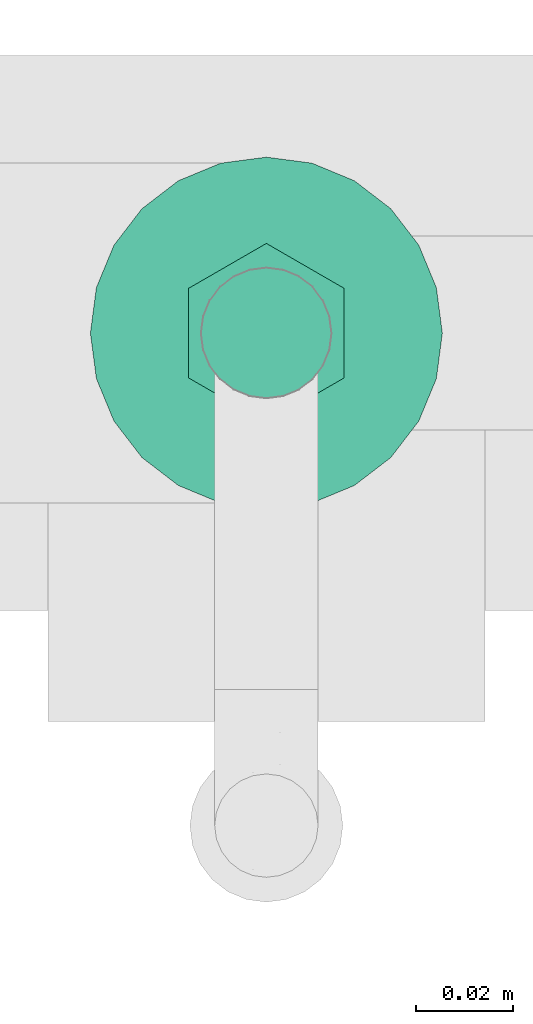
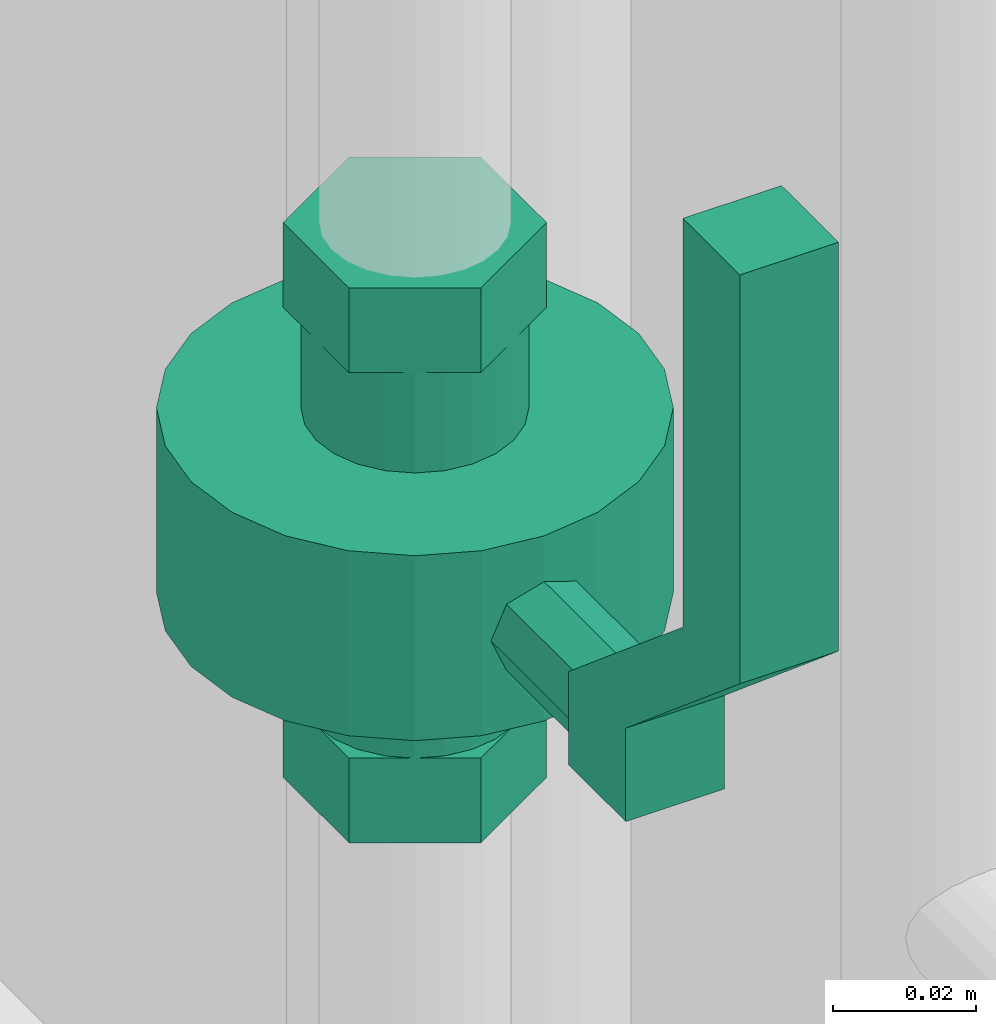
# One storey, part 263 of 374: 1 flow controller.
"""IFC2X3 building model written with IfcOpenShell, lengths in metres."""

from ifc_helpers import new_model, si_unit, direction, origin, place, context, subcontext, project, spatial, open_shell, surface_model, source, transform, mapped, element, save


model = new_model("IFC2X3")

# Units and contexts
model_context = context("Model", 3, precision=1e-05, world=origin(), true_north=direction((-0.4480736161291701, 0.8939966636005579)))
body_context = subcontext(model_context, "Body", "Model", "MODEL_VIEW")
ifc_project = project(units=[si_unit("LENGTHUNIT", "METRE"), si_unit("AREAUNIT", "SQUARE_METRE"), si_unit("VOLUMEUNIT", "CUBIC_METRE"), si_unit("PLANEANGLEUNIT", "RADIAN"), si_unit("THERMODYNAMICTEMPERATUREUNIT", "KELVIN"), si_unit("MASSUNIT", "GRAM", prefix="KILO"), si_unit("TIMEUNIT", "SECOND")], contexts=[model_context])

# Site, building, storey
site_placement = place(None, origin())
site = spatial("IfcSite", under=ifc_project, at=site_placement, Name="Site 1", CompositionType="ELEMENT")
building_placement = place(site_placement, origin())
building = spatial("IfcBuilding", under=site, at=building_placement, Name="Undefined", CompositionType="ELEMENT")
storey_placement = place(building_placement, origin())
storey = spatial("IfcBuildingStorey", under=building, at=storey_placement, Name="Rez de chauss\x8ee", CompositionType="ELEMENT", Elevation=0.0)

# Flow controller
shared_shape = source(origin(), body_context, "Body", "SurfaceModel", [
    surface_model("IfcFaceBasedSurfaceModel", [(0.0, 0.015999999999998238, 0.0), (0.0, 0.0, 0.0), (0.016000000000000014, 0.0, 0.0), (0.016000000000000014, 0.015999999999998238, 0.0), (0.0, 0.0, 0.016000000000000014), (0.016000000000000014, 0.0, 0.016000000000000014), (0.0, 0.015999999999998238, 0.016000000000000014), (0.016000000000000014, 0.015999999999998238, 0.016000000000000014), (0.0, 0.04299999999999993, 0.04800000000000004), (0.016000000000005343, 0.04299999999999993, 0.04800000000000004), (0.0, 0.11299999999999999, 0.04800000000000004), (0.016000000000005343, 0.11299999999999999, 0.04800000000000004), (0.0, 0.11299999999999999, 0.03200000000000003), (0.016000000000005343, 0.11299999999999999, 0.03200000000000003), (0.0, 0.04299999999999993, 0.03200000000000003), (0.016000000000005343, 0.04299999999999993, 0.03200000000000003), (0.02400000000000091, -0.03950000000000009, -0.06623760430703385), (0.02400000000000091, -0.03950000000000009, -0.04776239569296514), (0.02400000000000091, -0.025000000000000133, -0.04776239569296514), (0.02400000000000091, -0.025000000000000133, -0.06623760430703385), (0.008000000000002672, -0.03950000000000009, -0.07547520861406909), (0.008000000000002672, -0.025000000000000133, -0.07547520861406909), (-0.007999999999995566, -0.03950000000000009, -0.06623760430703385), (-0.007999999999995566, -0.025000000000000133, -0.06623760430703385), (-0.007999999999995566, -0.03950000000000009, -0.04776239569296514), (-0.007999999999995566, -0.025000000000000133, -0.04776239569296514), (0.008000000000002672, -0.03950000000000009, -0.03852479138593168), (0.008000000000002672, -0.025000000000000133, -0.03852479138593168), (-0.007999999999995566, -0.025000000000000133, -0.057000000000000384), (-0.007454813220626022, -0.025000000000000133, -0.05285889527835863), (-0.007454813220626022, -0.007833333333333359, -0.05285889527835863), (-0.007999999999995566, -0.007833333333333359, -0.057000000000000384), (-0.005856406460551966, -0.025000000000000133, -0.04899999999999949), (-0.005856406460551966, -0.007833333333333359, -0.04899999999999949), (-0.0033137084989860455, -0.025000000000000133, -0.04568629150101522), (-0.0033137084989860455, -0.007833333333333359, -0.04568629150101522), (0.0, -0.025000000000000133, -0.0431435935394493), (0.0, -0.007833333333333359, -0.0431435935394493), (0.003858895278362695, -0.025000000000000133, -0.04154518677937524), (0.003858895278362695, -0.007833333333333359, -0.04154518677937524), (0.008000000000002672, -0.025000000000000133, -0.04100000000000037), (0.008000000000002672, -0.007833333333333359, -0.04100000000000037), (0.012141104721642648, -0.025000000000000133, -0.04154518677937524), (0.012141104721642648, -0.007833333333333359, -0.04154518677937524), (0.016000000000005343, -0.025000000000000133, -0.0431435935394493), (0.016000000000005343, -0.007833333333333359, -0.0431435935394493), (0.01931370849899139, -0.025000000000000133, -0.04568629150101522), (0.01931370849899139, -0.007833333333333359, -0.04568629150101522), (0.02185640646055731, -0.025000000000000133, -0.04899999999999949), (0.02185640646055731, -0.007833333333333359, -0.04899999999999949), (0.023454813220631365, -0.025000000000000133, -0.05285889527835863), (0.023454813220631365, -0.007833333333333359, -0.05285889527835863), (0.02400000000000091, -0.025000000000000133, -0.057000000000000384), (0.02400000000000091, -0.007833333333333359, -0.057000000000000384), (0.023454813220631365, -0.025000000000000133, -0.06114110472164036), (0.023454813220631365, -0.007833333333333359, -0.06114110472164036), (0.02185640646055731, -0.025000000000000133, -0.0649999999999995), (0.02185640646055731, -0.007833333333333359, -0.0649999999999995), (0.01931370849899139, -0.025000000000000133, -0.06831370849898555), (0.01931370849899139, -0.007833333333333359, -0.06831370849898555), (0.016000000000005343, -0.025000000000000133, -0.07085640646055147), (0.016000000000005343, -0.007833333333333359, -0.07085640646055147), (0.012141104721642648, -0.025000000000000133, -0.07245481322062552), (0.012141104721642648, -0.007833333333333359, -0.07245481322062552), (0.008000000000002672, -0.025000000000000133, -0.0730000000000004), (0.008000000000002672, -0.007833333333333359, -0.0730000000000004), (0.003858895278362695, -0.025000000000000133, -0.07245481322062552), (0.003858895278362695, -0.007833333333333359, -0.07245481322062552), (0.0, -0.025000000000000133, -0.07085640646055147), (0.0, -0.007833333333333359, -0.07085640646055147), (-0.0033137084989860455, -0.025000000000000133, -0.06831370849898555), (-0.0033137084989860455, -0.007833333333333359, -0.06831370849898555), (-0.005856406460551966, -0.025000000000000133, -0.0649999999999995), (-0.005856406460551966, -0.007833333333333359, -0.0649999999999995), (-0.007454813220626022, -0.025000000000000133, -0.06114110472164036), (-0.007454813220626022, -0.007833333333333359, -0.06114110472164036), (-0.028249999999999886, -0.007833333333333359, -0.057000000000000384), (-0.027014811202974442, -0.007833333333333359, -0.04761780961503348), (-0.027014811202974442, 0.02383333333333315, -0.04761780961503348), (-0.028249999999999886, 0.02383333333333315, -0.057000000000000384), (-0.02339342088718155, -0.007833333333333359, -0.038874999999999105), (-0.02339342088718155, 0.02383333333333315, -0.038874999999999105), (-0.017632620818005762, -0.007833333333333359, -0.03136737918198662), (-0.017632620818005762, 0.02383333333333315, -0.03136737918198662), (-0.010124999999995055, -0.007833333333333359, -0.025606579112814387), (-0.010124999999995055, 0.02383333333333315, -0.025606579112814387), (-0.0013821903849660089, -0.007833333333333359, -0.021985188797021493), (-0.0013821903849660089, 0.02383333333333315, -0.021985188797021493), (0.008000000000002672, -0.007833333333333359, -0.020749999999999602), (0.008000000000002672, 0.02383333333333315, -0.020749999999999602), (0.017382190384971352, -0.007833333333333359, -0.021985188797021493), (0.017382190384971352, 0.02383333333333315, -0.021985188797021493), (0.026125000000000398, -0.007833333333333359, -0.025606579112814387), (0.026125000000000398, 0.02383333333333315, -0.025606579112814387), (0.033632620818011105, -0.007833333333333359, -0.03136737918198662), (0.033632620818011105, 0.02383333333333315, -0.03136737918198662), (0.03939342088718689, -0.007833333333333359, -0.038874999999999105), (0.03939342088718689, 0.02383333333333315, -0.038874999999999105), (0.043014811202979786, -0.007833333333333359, -0.04761780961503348), (0.043014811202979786, 0.02383333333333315, -0.04761780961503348), (0.04425000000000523, -0.007833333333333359, -0.057000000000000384), (0.04425000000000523, 0.02383333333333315, -0.057000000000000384), (0.043014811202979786, -0.007833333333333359, -0.06638219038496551), (0.043014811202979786, 0.02383333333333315, -0.06638219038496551), (0.03939342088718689, -0.007833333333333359, -0.07512499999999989), (0.03939342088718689, 0.02383333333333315, -0.07512499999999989), (0.033632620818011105, -0.007833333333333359, -0.08263262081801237), (0.033632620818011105, 0.02383333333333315, -0.08263262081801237), (0.026125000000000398, -0.007833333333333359, -0.0883934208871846), (0.026125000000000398, 0.02383333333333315, -0.0883934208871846), (0.017382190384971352, -0.007833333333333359, -0.0920148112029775), (0.017382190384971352, 0.02383333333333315, -0.0920148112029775), (0.008000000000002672, -0.007833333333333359, -0.09324999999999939), (0.008000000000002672, 0.02383333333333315, -0.09324999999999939), (-0.0013821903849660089, -0.007833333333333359, -0.0920148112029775), (-0.0013821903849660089, 0.02383333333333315, -0.0920148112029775), (-0.010124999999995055, -0.007833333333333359, -0.0883934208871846), (-0.010124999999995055, 0.02383333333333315, -0.0883934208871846), (-0.017632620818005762, -0.007833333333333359, -0.08263262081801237), (-0.017632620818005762, 0.02383333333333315, -0.08263262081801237), (-0.02339342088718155, -0.007833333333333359, -0.07512499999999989), (-0.02339342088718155, 0.02383333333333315, -0.07512499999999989), (-0.027014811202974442, -0.007833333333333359, -0.06638219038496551), (-0.027014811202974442, 0.02383333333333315, -0.06638219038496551), (0.008000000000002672, -0.007833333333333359, -0.057000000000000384), (0.008000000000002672, 0.02383333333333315, -0.057000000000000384), (-0.007999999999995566, 0.02383333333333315, -0.057000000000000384), (-0.007454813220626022, 0.02383333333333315, -0.05285889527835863), (-0.007454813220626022, 0.040999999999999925, -0.05285889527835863), (-0.007999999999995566, 0.040999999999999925, -0.057000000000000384), (-0.005856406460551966, 0.02383333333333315, -0.04899999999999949), (-0.005856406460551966, 0.040999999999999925, -0.04899999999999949), (-0.0033137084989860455, 0.02383333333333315, -0.04568629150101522), (-0.0033137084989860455, 0.040999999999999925, -0.04568629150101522), (0.0, 0.02383333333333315, -0.0431435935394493), (0.0, 0.040999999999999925, -0.0431435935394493), (0.003858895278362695, 0.02383333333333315, -0.04154518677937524), (0.003858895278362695, 0.040999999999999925, -0.04154518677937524), (0.008000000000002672, 0.02383333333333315, -0.04100000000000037), (0.008000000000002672, 0.040999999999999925, -0.04100000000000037), (0.012141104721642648, 0.02383333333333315, -0.04154518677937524), (0.012141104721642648, 0.040999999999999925, -0.04154518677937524), (0.016000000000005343, 0.02383333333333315, -0.0431435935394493), (0.016000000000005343, 0.040999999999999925, -0.0431435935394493), (0.01931370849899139, 0.02383333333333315, -0.04568629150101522), (0.01931370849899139, 0.040999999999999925, -0.04568629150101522), (0.02185640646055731, 0.02383333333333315, -0.04899999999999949), (0.02185640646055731, 0.040999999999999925, -0.04899999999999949), (0.023454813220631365, 0.02383333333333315, -0.05285889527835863), (0.023454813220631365, 0.040999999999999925, -0.05285889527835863), (0.02400000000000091, 0.02383333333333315, -0.057000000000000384), (0.02400000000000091, 0.040999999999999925, -0.057000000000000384), (0.023454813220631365, 0.02383333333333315, -0.06114110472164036), (0.023454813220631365, 0.040999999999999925, -0.06114110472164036), (0.02185640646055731, 0.02383333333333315, -0.0649999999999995), (0.02185640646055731, 0.040999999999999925, -0.0649999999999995), (0.01931370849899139, 0.02383333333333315, -0.06831370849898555), (0.01931370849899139, 0.040999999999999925, -0.06831370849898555), (0.016000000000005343, 0.02383333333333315, -0.07085640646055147), (0.016000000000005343, 0.040999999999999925, -0.07085640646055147), (0.012141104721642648, 0.02383333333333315, -0.07245481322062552), (0.012141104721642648, 0.040999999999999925, -0.07245481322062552), (0.008000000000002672, 0.02383333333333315, -0.0730000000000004), (0.008000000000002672, 0.040999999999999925, -0.0730000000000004), (0.003858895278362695, 0.02383333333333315, -0.07245481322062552), (0.003858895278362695, 0.040999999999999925, -0.07245481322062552), (0.0, 0.02383333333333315, -0.07085640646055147), (0.0, 0.040999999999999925, -0.07085640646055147), (-0.0033137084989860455, 0.02383333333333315, -0.06831370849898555), (-0.0033137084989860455, 0.040999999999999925, -0.06831370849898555), (-0.005856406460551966, 0.02383333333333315, -0.0649999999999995), (-0.005856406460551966, 0.040999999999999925, -0.0649999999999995), (-0.007454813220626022, 0.02383333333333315, -0.06114110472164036), (-0.007454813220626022, 0.040999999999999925, -0.06114110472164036), (0.02400000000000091, 0.040999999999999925, -0.06623760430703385), (0.02400000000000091, 0.040999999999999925, -0.04776239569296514), (0.02400000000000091, 0.05549999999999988, -0.04776239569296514), (0.02400000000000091, 0.05549999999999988, -0.06623760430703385), (0.008000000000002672, 0.040999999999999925, -0.07547520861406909), (0.008000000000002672, 0.05549999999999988, -0.07547520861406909), (-0.007999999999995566, 0.040999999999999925, -0.06623760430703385), (-0.007999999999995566, 0.05549999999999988, -0.06623760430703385), (-0.007999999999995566, 0.040999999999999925, -0.04776239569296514), (-0.007999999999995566, 0.05549999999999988, -0.04776239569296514), (0.008000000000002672, 0.040999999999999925, -0.03852479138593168), (0.008000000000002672, 0.05549999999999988, -0.03852479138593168), (0.008000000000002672, 0.015999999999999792, -0.057000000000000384), (0.002343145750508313, 0.013656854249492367, -0.057000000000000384), (0.002343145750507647, 0.013656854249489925, 0.0), (0.008000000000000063, 0.015999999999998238, 0.0), (0.0, 0.007999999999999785, -0.057000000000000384), (0.0, 0.008, 0.0), (0.002343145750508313, 0.002343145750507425, -0.057000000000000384), (0.002343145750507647, 0.002343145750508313, 0.0), (0.008000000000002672, 0.0, -0.057000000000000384), (0.008000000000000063, 0.0, 0.0), (0.01365685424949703, 0.002343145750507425, -0.057000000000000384), (0.013656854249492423, 0.002343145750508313, 0.0), (0.016000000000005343, 0.007999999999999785, -0.057000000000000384), (0.016000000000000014, 0.008000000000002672, 0.0), (0.01365685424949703, 0.013656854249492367, -0.057000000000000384), (0.013656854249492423, 0.013656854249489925, 0.0)], [open_shell([[[0, 1, 2, 3]], [[1, 4, 5, 2]], [[4, 6, 7, 5]], [[6, 8, 9, 7]], [[8, 10, 11, 9]], [[10, 12, 13, 11]], [[12, 14, 15, 13]], [[14, 0, 3, 15]], [[3, 7, 2]], [[7, 3, 9]], [[15, 9, 3]], [[9, 15, 11]], [[13, 11, 15]], [[5, 2, 7]], [[1, 6, 0]], [[8, 0, 6]], [[0, 8, 14]], [[10, 14, 8]], [[14, 10, 12]], [[6, 1, 4]], [[16, 17, 18, 19]], [[20, 16, 19, 21]], [[22, 20, 21, 23]], [[24, 22, 23, 25]], [[26, 24, 25, 27]], [[17, 26, 27, 18]], [[17, 16, 20]], [[17, 20, 22]], [[17, 22, 24]], [[17, 24, 26]], [[18, 21, 19]], [[18, 23, 21]], [[18, 25, 23]], [[18, 27, 25]], [[28, 29, 30, 31]], [[29, 32, 33, 30]], [[32, 34, 35, 33]], [[34, 36, 37, 35]], [[36, 38, 39, 37]], [[38, 40, 41, 39]], [[40, 42, 43, 41]], [[42, 44, 45, 43]], [[44, 46, 47, 45]], [[46, 48, 49, 47]], [[48, 50, 51, 49]], [[50, 52, 53, 51]], [[52, 54, 55, 53]], [[54, 56, 57, 55]], [[56, 58, 59, 57]], [[58, 60, 61, 59]], [[60, 62, 63, 61]], [[62, 64, 65, 63]], [[64, 66, 67, 65]], [[66, 68, 69, 67]], [[68, 70, 71, 69]], [[70, 72, 73, 71]], [[72, 74, 75, 73]], [[74, 28, 31, 75]], [[76, 77, 78, 79]], [[77, 80, 81, 78]], [[80, 82, 83, 81]], [[82, 84, 85, 83]], [[84, 86, 87, 85]], [[86, 88, 89, 87]], [[88, 90, 91, 89]], [[90, 92, 93, 91]], [[92, 94, 95, 93]], [[94, 96, 97, 95]], [[96, 98, 99, 97]], [[98, 100, 101, 99]], [[100, 102, 103, 101]], [[102, 104, 105, 103]], [[104, 106, 107, 105]], [[106, 108, 109, 107]], [[108, 110, 111, 109]], [[110, 112, 113, 111]], [[112, 114, 115, 113]], [[114, 116, 117, 115]], [[116, 118, 119, 117]], [[118, 120, 121, 119]], [[120, 122, 123, 121]], [[122, 76, 79, 123]], [[124, 77, 76]], [[124, 80, 77]], [[124, 82, 80]], [[124, 84, 82]], [[124, 86, 84]], [[124, 88, 86]], [[124, 90, 88]], [[124, 92, 90]], [[124, 94, 92]], [[124, 96, 94]], [[124, 98, 96]], [[124, 100, 98]], [[124, 102, 100]], [[124, 104, 102]], [[124, 106, 104]], [[124, 108, 106]], [[124, 110, 108]], [[124, 112, 110]], [[124, 114, 112]], [[124, 116, 114]], [[124, 118, 116]], [[124, 120, 118]], [[124, 122, 120]], [[124, 76, 122]], [[125, 123, 79]], [[125, 121, 123]], [[125, 119, 121]], [[125, 117, 119]], [[125, 115, 117]], [[125, 113, 115]], [[125, 111, 113]], [[125, 109, 111]], [[125, 107, 109]], [[125, 105, 107]], [[125, 103, 105]], [[125, 101, 103]], [[125, 99, 101]], [[125, 97, 99]], [[125, 95, 97]], [[125, 93, 95]], [[125, 91, 93]], [[125, 89, 91]], [[125, 87, 89]], [[125, 85, 87]], [[125, 83, 85]], [[125, 81, 83]], [[125, 78, 81]], [[125, 79, 78]], [[126, 127, 128, 129]], [[127, 130, 131, 128]], [[130, 132, 133, 131]], [[132, 134, 135, 133]], [[134, 136, 137, 135]], [[136, 138, 139, 137]], [[138, 140, 141, 139]], [[140, 142, 143, 141]], [[142, 144, 145, 143]], [[144, 146, 147, 145]], [[146, 148, 149, 147]], [[148, 150, 151, 149]], [[150, 152, 153, 151]], [[152, 154, 155, 153]], [[154, 156, 157, 155]], [[156, 158, 159, 157]], [[158, 160, 161, 159]], [[160, 162, 163, 161]], [[162, 164, 165, 163]], [[164, 166, 167, 165]], [[166, 168, 169, 167]], [[168, 170, 171, 169]], [[170, 172, 173, 171]], [[172, 126, 129, 173]], [[174, 175, 176, 177]], [[178, 174, 177, 179]], [[180, 178, 179, 181]], [[182, 180, 181, 183]], [[184, 182, 183, 185]], [[175, 184, 185, 176]], [[175, 174, 178]], [[175, 178, 180]], [[175, 180, 182]], [[175, 182, 184]], [[176, 179, 177]], [[176, 181, 179]], [[176, 183, 181]], [[176, 185, 183]], [[186, 187, 188, 189]], [[187, 190, 191, 188]], [[190, 192, 193, 191]], [[192, 194, 195, 193]], [[194, 196, 197, 195]], [[196, 198, 199, 197]], [[198, 200, 201, 199]], [[200, 186, 189, 201]]])]),
])
flow_controller_placement = place(storey_placement, origin())
element("IfcFlowController", 1, at=flow_controller_placement, inside=storey, Name="Robinet à boisseau sphérique", ObjectType="Robinet à boisseau sphérique", context=body_context, shape_type="MappedRepresentation", body=[
    mapped(shared_shape, transform((52.849562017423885, 10.661037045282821, 1.713989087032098), x_axis=(1.0, 0.0, 0.0), y_axis=(0.0, 0.0, 1.0), z_axis=(0.0, -1.0, 0.0))),
])

save(model, "model.ifc")
